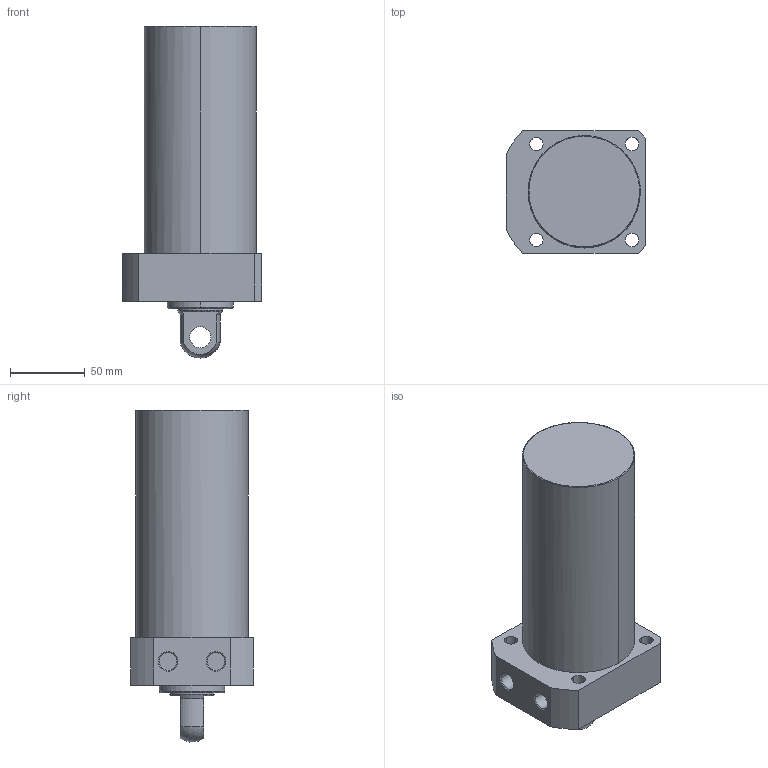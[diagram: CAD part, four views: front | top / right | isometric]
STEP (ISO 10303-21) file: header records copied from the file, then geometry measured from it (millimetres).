
FILE_DESCRIPTION((' '),'2;1');
FILE_NAME( 'TLLR-075CP-115.STEP.stp', '2025-10-24T16:35:15', (' '), ('--- Datakit www.datakit.com---'), ' Datakit CrossCadWare V2024.1 Dec 21 2023', 'Mastercam 2025', ' ');
FILE_SCHEMA(('AUTOMOTIVE_DESIGN { 1 0 10303 214 1 1 1 1 }'));
Length unit declared in the file: millimetre
Products named in the file (1): TLLR-075CP-115
Bounding box: 93 x 82 x 221.9 mm (x, y, z)
Volume: 914965.5 mm3; surface area: 69052.7 mm2
Topology: 1 solids, 1 shells, 57 faces, 164 edges, 116 vertices
Faces by surface type: cylinder 28, plane 18, cone 8, torus 2, sphere 1
Entity records: 2006 total; most frequent: DIRECTION 378, CARTESIAN_POINT 350, ORIENTED_EDGE 328, EDGE_CURVE 164, AXIS2_PLACEMENT_3D 160, VERTEX_POINT 116, CIRCLE 102, EDGE_LOOP 74
